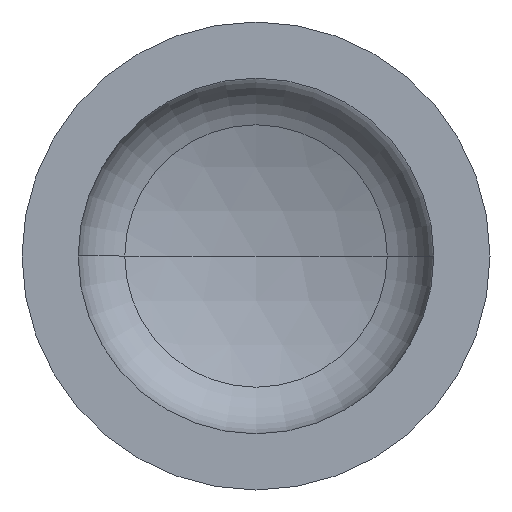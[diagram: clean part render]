
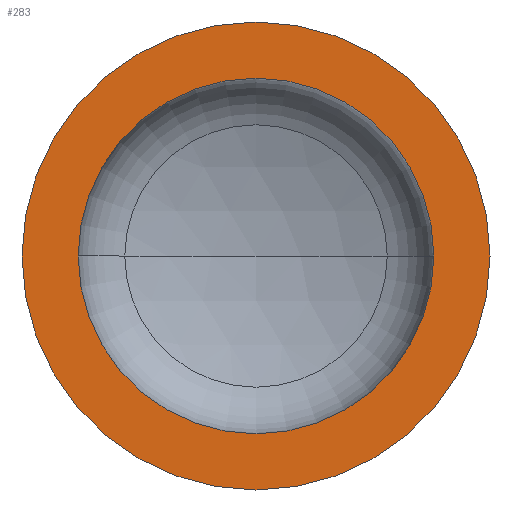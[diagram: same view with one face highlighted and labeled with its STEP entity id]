
A CAD part, front view. The second image highlights one B-rep face of the part: STEP entity #283.
In plain terms, the highlighted planar face has unit normal (0, -1, 0).
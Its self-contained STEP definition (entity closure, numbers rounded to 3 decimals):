
#10 = VERTEX_POINT ( 'NONE', #238 ) ;
#12 = ORIENTED_EDGE ( 'NONE', *, *, #390, .F. ) ;
#36 = AXIS2_PLACEMENT_3D ( 'NONE', #212, #42, #38 ) ;
#38 = DIRECTION ( 'NONE',  ( -1., 0., 0. ) ) ;
#42 = DIRECTION ( 'NONE',  ( 0., 1., 0. ) ) ;
#44 = AXIS2_PLACEMENT_3D ( 'NONE', #372, #394, #393 ) ;
#56 = VERTEX_POINT ( 'NONE', #199 ) ;
#73 = AXIS2_PLACEMENT_3D ( 'NONE', #332, #330, #328 ) ;
#74 = AXIS2_PLACEMENT_3D ( 'NONE', #302, #301, #161 ) ;
#82 = EDGE_CURVE ( 'NONE', #10, #282, #102, .T. ) ;
#84 = EDGE_CURVE ( 'NONE', #243, #56, #241, .T. ) ;
#102 = CIRCLE ( 'NONE', #74, 300. ) ;
#118 = CARTESIAN_POINT ( 'NONE',  ( 0., 0., 0. ) ) ;
#125 = EDGE_LOOP ( 'NONE', ( #365, #193 ) ) ;
#126 = DIRECTION ( 'NONE',  ( 0., -1., 0. ) ) ;
#159 = PLANE ( 'NONE',  #36 ) ;
#161 = DIRECTION ( 'NONE',  ( 1., 0., 0. ) ) ;
#187 = CIRCLE ( 'NONE', #368, 228. ) ;
#190 = CARTESIAN_POINT ( 'NONE',  ( 228., 0., 0. ) ) ;
#193 = ORIENTED_EDGE ( 'NONE', *, *, #82, .T. ) ;
#199 = CARTESIAN_POINT ( 'NONE',  ( -228., 0., 0. ) ) ;
#205 = FACE_OUTER_BOUND ( 'NONE', #125, .T. ) ;
#212 = CARTESIAN_POINT ( 'NONE',  ( -300., 0., 0. ) ) ;
#238 = CARTESIAN_POINT ( 'NONE',  ( -300., 0., 0. ) ) ;
#241 = CIRCLE ( 'NONE', #73, 228. ) ;
#243 = VERTEX_POINT ( 'NONE', #190 ) ;
#260 = CARTESIAN_POINT ( 'NONE',  ( 300., 0., 0. ) ) ;
#270 = FACE_BOUND ( 'NONE', #305, .T. ) ;
#282 = VERTEX_POINT ( 'NONE', #260 ) ;
#283 = ADVANCED_FACE ( 'NONE', ( #270, #205 ), #159, .F. ) ;
#284 = EDGE_CURVE ( 'NONE', #282, #10, #400, .T. ) ;
#301 = DIRECTION ( 'NONE',  ( 0., -1., 0. ) ) ;
#302 = CARTESIAN_POINT ( 'NONE',  ( 0., 0., 0. ) ) ;
#305 = EDGE_LOOP ( 'NONE', ( #331, #12 ) ) ;
#328 = DIRECTION ( 'NONE',  ( 1., 0., 0. ) ) ;
#330 = DIRECTION ( 'NONE',  ( 0., -1., 0. ) ) ;
#331 = ORIENTED_EDGE ( 'NONE', *, *, #84, .F. ) ;
#332 = CARTESIAN_POINT ( 'NONE',  ( 0., 0., 0. ) ) ;
#365 = ORIENTED_EDGE ( 'NONE', *, *, #284, .T. ) ;
#368 = AXIS2_PLACEMENT_3D ( 'NONE', #118, #126, #407 ) ;
#372 = CARTESIAN_POINT ( 'NONE',  ( 0., 0., 0. ) ) ;
#390 = EDGE_CURVE ( 'NONE', #56, #243, #187, .T. ) ;
#393 = DIRECTION ( 'NONE',  ( 1., 0., 0. ) ) ;
#394 = DIRECTION ( 'NONE',  ( 0., -1., 0. ) ) ;
#400 = CIRCLE ( 'NONE', #44, 300. ) ;
#407 = DIRECTION ( 'NONE',  ( 1., 0., 0. ) ) ;
